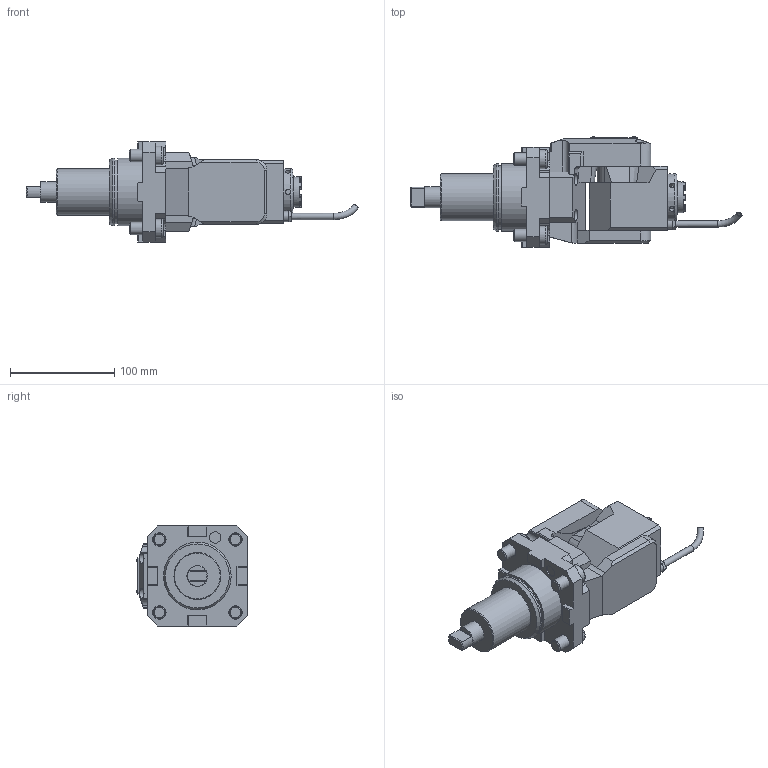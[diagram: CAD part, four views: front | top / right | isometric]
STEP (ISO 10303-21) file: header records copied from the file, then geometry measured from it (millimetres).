
FILE_DESCRIPTION(/* description */ (''),/* implementation_level */ '2;1');
FILE_NAME(/* name */ '193136',/* time_stamp */ '2020-05-26T07:11:38+02:00',/* author */ (''),/* organization */ (''),/* preprocessor_version */ 'ST-DEVELOPER v16.5',/* originating_system */ 'HiCAD 2017 2201.0 Build 268',/* authorisation */ '');
FILE_SCHEMA (('AUTOMOTIVE_DESIGN { 1 0 10303 214 1 1 1 1 }'));
Length unit declared in the file: millimetre
Products named in the file (20): Root; Teil; GEWINDE; DIN 13-M32x1,5; DIN 76-M6; 0°
Assembly tree (19 placements, depth 3):
  Root
    Teil
      GEWINDE
      GEWINDE
      GEWINDE
      GEWINDE
      GEWINDE
      GEWINDE
      GEWINDE
      GEWINDE
      GEWINDE
      GEWINDE
      GEWINDE
      GEWINDE
      GEWINDE
      DIN 13-M32x1,5
      DIN 76-M6
      DIN 13-M32x1,5
      DIN 76-M6
      0°
Bounding box: 318.54 x 106.3 x 96 mm (x, y, z)
Volume: 954134.8 mm3; surface area: 130635.4 mm2
Topology: 22 solids, 34 shells, 814 faces, 2027 edges, 1317 vertices
Faces by surface type: plane 493, cylinder 229, cone 59, torus 29, sphere 4
Full cylindrical faces by diameter (mm): 2 x4, 2.2 x4, 4 x1, 4.019 x8, 4.773 x12, 5 x9, 5.1 x6, 5.5 x4, 6 x15, 6.6 x4, 8.5 x4, 8.773 x2, 10 x9, 10.2 x8, 11 x4, 11.1 x1, 12 x8, 13 x4, 16 x1, 18 x4, 18.2 x1, 19 x1, 20 x1, 21 x2, 22 x1, 23.4 x1, 29.5 x1, 30 x1, 30.16 x2, 30.5 x1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
Entity records: 46017 total; most frequent: CARTESIAN_POINT 8783, DIRECTION 3877, PRESENTATION_STYLE_ASSIGNMENT 3722, OVER_RIDING_STYLED_ITEM 3704, DRAUGHTING_PRE_DEFINED_CURVE_FONT 3434, CURVE_STYLE 3434, ORIENTED_EDGE 3434, COLOUR_RGB 3106
